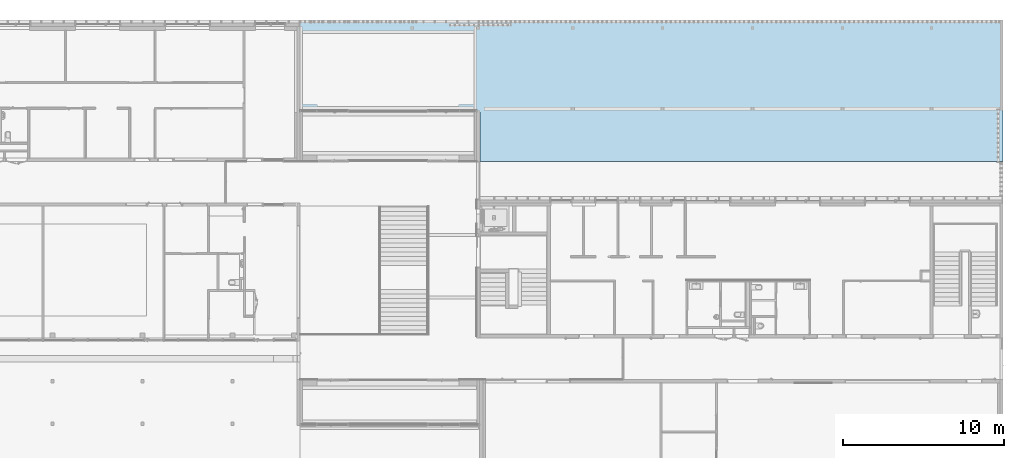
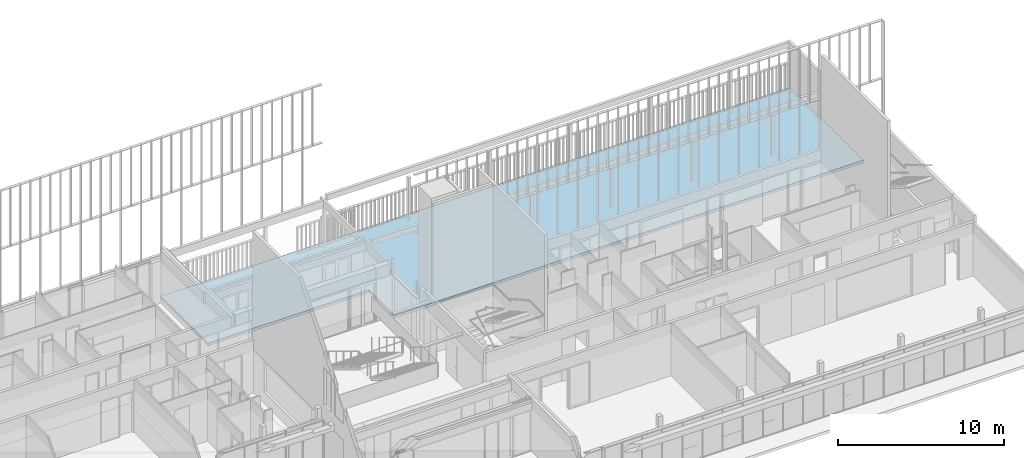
# One storey, part 77 of 240: 1 slab.
"""IFC2X3 building model written with IfcOpenShell, lengths in centimetres."""

from ifc_helpers import new_model, entity, si_unit, converted_unit, derived_unit, direction, frame, origin, place, context, subcontext, project, spatial, polyline, outline, extrude, material, layer, layer_set, layer_usage, type_object, element, save


model = new_model("IFC2X3")

# Units and contexts
model_context = context("Model", 3, precision=0.001, world=origin(), true_north=direction((6.12303176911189e-17, 1.0)))
body_context = subcontext(model_context, "Body", "Model", "MODEL_VIEW")
ifc_project = project(units=[si_unit("LENGTHUNIT", "METRE", prefix="CENTI"), si_unit("AREAUNIT", "SQUARE_METRE"), si_unit("VOLUMEUNIT", "CUBIC_METRE"), converted_unit("PLANEANGLEUNIT", "DEGREE", entity("IfcRatioMeasure", 0.0174532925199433), si_unit("PLANEANGLEUNIT", "RADIAN"), dimensions=[0, 0, 0, 0, 0, 0, 0]), si_unit("MASSUNIT", "GRAM", prefix="KILO"), derived_unit("MASSDENSITYUNIT", [(si_unit("MASSUNIT", "GRAM", prefix="KILO"), 1), (si_unit("LENGTHUNIT", "METRE"), -3)]), si_unit("TIMEUNIT", "SECOND"), si_unit("FREQUENCYUNIT", "HERTZ"), si_unit("THERMODYNAMICTEMPERATUREUNIT", "DEGREE_CELSIUS"), derived_unit("THERMALTRANSMITTANCEUNIT", [(si_unit("MASSUNIT", "GRAM", prefix="KILO"), 1), (si_unit("THERMODYNAMICTEMPERATUREUNIT", "KELVIN"), -1), (si_unit("TIMEUNIT", "SECOND"), -3)]), derived_unit("VOLUMETRICFLOWRATEUNIT", [(si_unit("LENGTHUNIT", "METRE"), 3), (si_unit("TIMEUNIT", "SECOND"), -1)]), si_unit("ELECTRICCURRENTUNIT", "AMPERE"), si_unit("ELECTRICVOLTAGEUNIT", "VOLT"), si_unit("POWERUNIT", "WATT"), si_unit("FORCEUNIT", "NEWTON", prefix="KILO"), si_unit("ILLUMINANCEUNIT", "LUX"), si_unit("LUMINOUSFLUXUNIT", "LUMEN"), si_unit("LUMINOUSINTENSITYUNIT", "CANDELA"), derived_unit("USERDEFINED", [(si_unit("MASSUNIT", "GRAM", prefix="KILO"), -1), (si_unit("LENGTHUNIT", "METRE"), -2), (si_unit("TIMEUNIT", "SECOND"), 3), (si_unit("LUMINOUSFLUXUNIT", "LUMEN"), 1)]), derived_unit("LINEARVELOCITYUNIT", [(si_unit("LENGTHUNIT", "METRE"), 1), (si_unit("TIMEUNIT", "SECOND"), -1)]), si_unit("PRESSUREUNIT", "PASCAL"), derived_unit("USERDEFINED", [(si_unit("LENGTHUNIT", "METRE"), -2), (si_unit("MASSUNIT", "GRAM", prefix="KILO"), 1), (si_unit("TIMEUNIT", "SECOND"), -2)])], contexts=[model_context])

# Site, building, storey
site_placement = place(None, frame((-2781.94577612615, 7442.24238424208, 0.0)))
site = spatial("IfcSite", under=ifc_project, at=site_placement, Name="Default", CompositionType="ELEMENT")
building_placement = place(site_placement, origin())
building = spatial("IfcBuilding", under=site, at=building_placement, CompositionType="ELEMENT")
storey_placement = place(building_placement, origin())
storey = spatial("IfcBuildingStorey", under=building, at=storey_placement, Name="N00 - COO", CompositionType="ELEMENT", Elevation=0.0)

# Slab
ifc_material = material(Name="01 - Maçonnerie")
ifc_layer = layer(ifc_material, 20.0)
ifc_layer_set = layer_set([ifc_layer], Name="Sol:02 - dalle béton 20cm")
ifc_layer_usage = layer_usage(ifc_layer_set, "AXIS3", "POSITIVE", 0.0)
slab_type = type_object("IfcSlabType", Name="Sol:02 - dalle béton 20cm", PredefinedType="FLOOR", material=ifc_layer_set)
slab_placement = place(building_placement, origin())
element("IfcSlab", 1, at=slab_placement, inside=storey, type_object=slab_type, material=ifc_layer_usage, Name="Sol:02 - dalle béton 20cm", ObjectType="Sol:02 - dalle béton 20cm", PredefinedType="FLOOR", context=body_context, shape_type="SweptSolid", body=[
    extrude(outline(polyline([(-88.2495003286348, -1832.66666422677), (484.1490006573, -1832.66666422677), (484.149000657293, 2545.33333053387), (-395.89950032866, 2545.33333053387), (-395.899500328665, -712.666666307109), (-88.2495003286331, -712.66666630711), (-88.2495003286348, -1832.66666422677)])), frame((-2935.33321337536, -434.149000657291, 0.0), z_axis=(0.0, 0.0, -1.0), x_axis=(0.0, 1.0, 0.0)), (0.0, 0.0, 1.0), 20.0),
])

save(model, "model.ifc")
